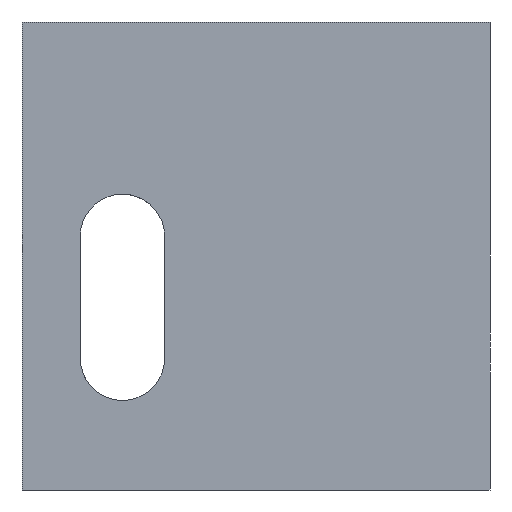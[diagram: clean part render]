
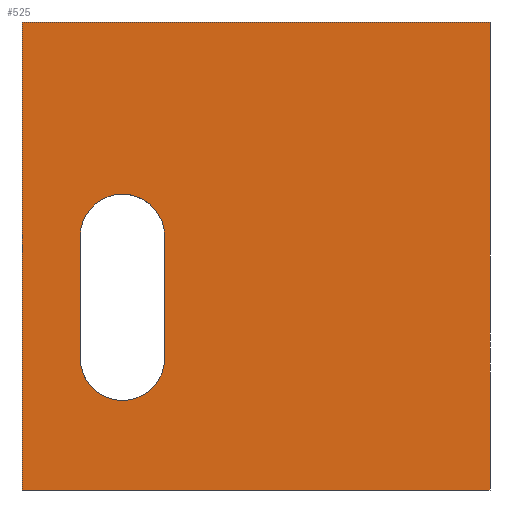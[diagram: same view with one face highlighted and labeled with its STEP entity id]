
A CAD part, left-side view. The second image highlights one B-rep face of the part: STEP entity #525.
In plain terms, the highlighted planar face has unit normal (-1, 0, 0).
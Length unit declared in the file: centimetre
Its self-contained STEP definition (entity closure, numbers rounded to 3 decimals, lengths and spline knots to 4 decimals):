
#5 = LINE ( 'NONE', #748, #331 ) ;
#13 = ORIENTED_EDGE ( 'NONE', *, *, #189, .F. ) ;
#19 = EDGE_CURVE ( 'NONE', #902, #263, #647, .T. ) ;
#26 = VERTEX_POINT ( 'NONE', #622 ) ;
#76 = DIRECTION ( 'NONE',  ( 0., 0., -1. ) ) ;
#113 = EDGE_CURVE ( 'NONE', #1179, #567, #572, .T. ) ;
#115 = CARTESIAN_POINT ( 'NONE',  ( 0., 0., 0. ) ) ;
#127 = DIRECTION ( 'NONE',  ( -1., 0., 0. ) ) ;
#137 = CARTESIAN_POINT ( 'NONE',  ( 0., 0., 1000. ) ) ;
#152 = EDGE_CURVE ( 'NONE', #999, #522, #303, .T. ) ;
#174 = CARTESIAN_POINT ( 'NONE',  ( 0., 1000., 1000. ) ) ;
#183 = EDGE_CURVE ( 'NONE', #638, #241, #1148, .T. ) ;
#187 = DIRECTION ( 'NONE',  ( 0., -1., 0. ) ) ;
#189 = EDGE_CURVE ( 'NONE', #241, #999, #274, .T. ) ;
#201 = AXIS2_PLACEMENT_3D ( 'NONE', #989, #325, #321 ) ;
#214 = ORIENTED_EDGE ( 'NONE', *, *, #1003, .F. ) ;
#232 = EDGE_CURVE ( 'NONE', #522, #26, #1042, .T. ) ;
#241 = VERTEX_POINT ( 'NONE', #1153 ) ;
#261 = FACE_OUTER_BOUND ( 'NONE', #450, .T. ) ;
#263 = VERTEX_POINT ( 'NONE', #137 ) ;
#274 = CIRCLE ( 'NONE', #201, 90.095 ) ;
#278 = CARTESIAN_POINT ( 'NONE',  ( 0., 875.4706, 542.2508 ) ) ;
#303 = LINE ( 'NONE', #841, #313 ) ;
#310 = CARTESIAN_POINT ( 'NONE',  ( 0., 875.4706, 542.2508 ) ) ;
#313 = VECTOR ( 'NONE', #677, 100. ) ;
#321 = DIRECTION ( 'NONE',  ( 0., 0., 1. ) ) ;
#325 = DIRECTION ( 'NONE',  ( -1., 0., 0. ) ) ;
#331 = VECTOR ( 'NONE', #860, 100. ) ;
#353 = EDGE_CURVE ( 'NONE', #26, #638, #1170, .T. ) ;
#354 = DIRECTION ( 'NONE',  ( 0., 0., -1. ) ) ;
#371 = AXIS2_PLACEMENT_3D ( 'NONE', #174, #541, #76 ) ;
#419 = DIRECTION ( 'NONE',  ( 0., 0., -1. ) ) ;
#423 = EDGE_LOOP ( 'NONE', ( #1132, #13, #1094, #491, #675 ) ) ;
#445 = CARTESIAN_POINT ( 'NONE',  ( 0., 0., 1000. ) ) ;
#450 = EDGE_LOOP ( 'NONE', ( #583, #214, #918, #965 ) ) ;
#471 = DIRECTION ( 'NONE',  ( 0., -1., 0. ) ) ;
#491 = ORIENTED_EDGE ( 'NONE', *, *, #353, .F. ) ;
#511 = CARTESIAN_POINT ( 'NONE',  ( 0., 785.3756, 542.2508 ) ) ;
#522 = VERTEX_POINT ( 'NONE', #712 ) ;
#525 = ADVANCED_FACE ( 'NONE', ( #725, #261 ), #636, .F. ) ;
#527 = LINE ( 'NONE', #445, #529 ) ;
#529 = VECTOR ( 'NONE', #354, 100. ) ;
#541 = DIRECTION ( 'NONE',  ( 1., 0., 0. ) ) ;
#567 = VERTEX_POINT ( 'NONE', #115 ) ;
#572 = LINE ( 'NONE', #870, #1096 ) ;
#573 = CARTESIAN_POINT ( 'NONE',  ( 0., 1000., 0. ) ) ;
#583 = ORIENTED_EDGE ( 'NONE', *, *, #113, .T. ) ;
#587 = AXIS2_PLACEMENT_3D ( 'NONE', #1053, #127, #1033 ) ;
#604 = EDGE_CURVE ( 'NONE', #902, #1179, #5, .T. ) ;
#622 = CARTESIAN_POINT ( 'NONE',  ( 0., 785.3756, 632.3458 ) ) ;
#636 = PLANE ( 'NONE',  #371 ) ;
#638 = VERTEX_POINT ( 'NONE', #278 ) ;
#647 = LINE ( 'NONE', #1198, #920 ) ;
#675 = ORIENTED_EDGE ( 'NONE', *, *, #232, .F. ) ;
#677 = DIRECTION ( 'NONE',  ( 0., 0., 1. ) ) ;
#682 = DIRECTION ( 'NONE',  ( 0., 0., 1. ) ) ;
#694 = DIRECTION ( 'NONE',  ( -1., 0., 0. ) ) ;
#712 = CARTESIAN_POINT ( 'NONE',  ( 0., 695.2806, 542.2508 ) ) ;
#720 = VECTOR ( 'NONE', #419, 100. ) ;
#725 = FACE_BOUND ( 'NONE', #423, .T. ) ;
#748 = CARTESIAN_POINT ( 'NONE',  ( 0., 1000., 1000. ) ) ;
#805 = CARTESIAN_POINT ( 'NONE',  ( 0., 695.2806, 281.3206 ) ) ;
#841 = CARTESIAN_POINT ( 'NONE',  ( 0., 695.2806, 281.3206 ) ) ;
#860 = DIRECTION ( 'NONE',  ( 0., 0., -1. ) ) ;
#870 = CARTESIAN_POINT ( 'NONE',  ( 0., 1000., 0. ) ) ;
#902 = VERTEX_POINT ( 'NONE', #1175 ) ;
#918 = ORIENTED_EDGE ( 'NONE', *, *, #19, .F. ) ;
#920 = VECTOR ( 'NONE', #187, 100. ) ;
#965 = ORIENTED_EDGE ( 'NONE', *, *, #604, .T. ) ;
#979 = AXIS2_PLACEMENT_3D ( 'NONE', #511, #694, #682 ) ;
#989 = CARTESIAN_POINT ( 'NONE',  ( 0., 785.3756, 281.3206 ) ) ;
#999 = VERTEX_POINT ( 'NONE', #805 ) ;
#1003 = EDGE_CURVE ( 'NONE', #263, #567, #527, .T. ) ;
#1033 = DIRECTION ( 'NONE',  ( 0., 0., 1. ) ) ;
#1042 = CIRCLE ( 'NONE', #979, 90.095 ) ;
#1053 = CARTESIAN_POINT ( 'NONE',  ( 0., 785.3756, 542.2508 ) ) ;
#1094 = ORIENTED_EDGE ( 'NONE', *, *, #183, .F. ) ;
#1096 = VECTOR ( 'NONE', #471, 100. ) ;
#1132 = ORIENTED_EDGE ( 'NONE', *, *, #152, .F. ) ;
#1148 = LINE ( 'NONE', #310, #720 ) ;
#1153 = CARTESIAN_POINT ( 'NONE',  ( 0., 875.4706, 281.3206 ) ) ;
#1170 = CIRCLE ( 'NONE', #587, 90.095 ) ;
#1175 = CARTESIAN_POINT ( 'NONE',  ( 0., 1000., 1000. ) ) ;
#1179 = VERTEX_POINT ( 'NONE', #573 ) ;
#1198 = CARTESIAN_POINT ( 'NONE',  ( 0., 1000., 1000. ) ) ;
